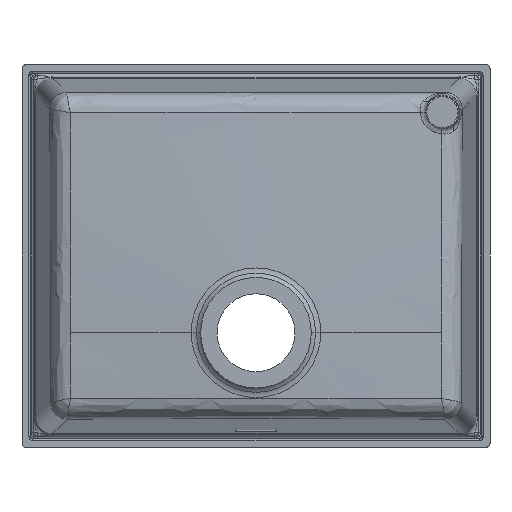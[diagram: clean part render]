
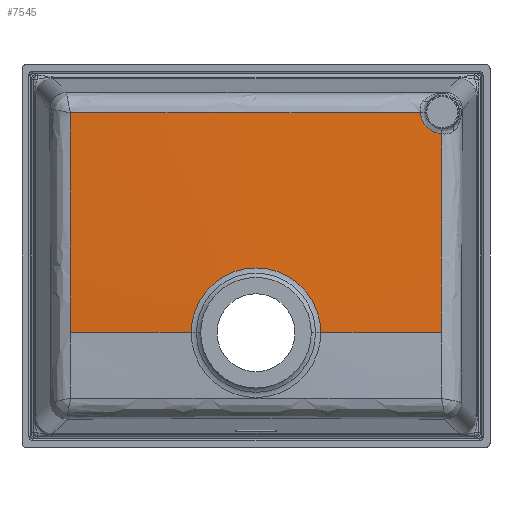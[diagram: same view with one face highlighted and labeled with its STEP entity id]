
A CAD part, front view. The second image highlights one B-rep face of the part: STEP entity #7545.
In plain terms, the highlighted conical face has half-angle 87 degrees and reference radius 207.303 mm.
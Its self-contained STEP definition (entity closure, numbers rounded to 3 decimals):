
#1901=CARTESIAN_POINT('',(0.,-207.06,0.));
#1902=DIRECTION('',(0.,-1.,0.));
#1903=DIRECTION('',(1.,0.,0.));
#1904=AXIS2_PLACEMENT_3D('',#1901,#1902,#1903);
#1909=CARTESIAN_POINT('',(218.068,-199.625,
0.));
#1910=CARTESIAN_POINT('',(218.068,-199.625,1.145));
#1911=CARTESIAN_POINT('',(218.068,-199.618,16.9));
#1912=CARTESIAN_POINT('',(218.066,-199.432,47.261));
#1913=CARTESIAN_POINT('',(218.065,-198.495,105.644));
#1914=CARTESIAN_POINT('',(218.099,-196.725,167.825));
#1915=CARTESIAN_POINT('',(218.176,-195.001,215.358));
#1916=CARTESIAN_POINT('',(218.213,-194.293,233.797));
#1921=CARTESIAN_POINT('',(-218.267,-193.318,
258.623));
#1922=CARTESIAN_POINT('',(-218.205,-194.39,
231.92));
#1923=CARTESIAN_POINT('',(-218.103,-196.489,
176.129));
#1924=CARTESIAN_POINT('',(-218.065,-198.495,
105.652));
#1925=CARTESIAN_POINT('',(-218.066,-199.432,
47.264));
#1926=CARTESIAN_POINT('',(-218.068,-199.618,
16.904));
#1927=CARTESIAN_POINT('',(-218.068,-199.625,
1.149));
#1928=CARTESIAN_POINT('',(-218.068,-199.625,
0.));
#1933=CARTESIAN_POINT('',(193.444,-194.129,258.585));
#1934=CARTESIAN_POINT('',(166.694,-194.971,258.549));
#1935=CARTESIAN_POINT('',(121.116,-196.215,258.509));
#1936=CARTESIAN_POINT('',(56.628,-197.287,258.492));
#1937=CARTESIAN_POINT('',(0.045,-197.616,
258.49));
#1938=CARTESIAN_POINT('',(-56.544,-197.288,
258.492));
#1939=CARTESIAN_POINT('',(-129.355,-196.078,
258.511));
#1940=CARTESIAN_POINT('',(-183.232,-194.505,
258.565));
#1941=CARTESIAN_POINT('',(-218.267,-193.318,
258.623));
#1946=CARTESIAN_POINT('',(218.213,-194.293,233.797));
#1947=CARTESIAN_POINT('',(217.415,-194.32,233.845));
#1948=CARTESIAN_POINT('',(215.809,-194.37,234.016));
#1949=CARTESIAN_POINT('',(212.69,-194.457,234.641));
#1950=CARTESIAN_POINT('',(210.057,-194.513,235.55));
#1951=CARTESIAN_POINT('',(207.877,-194.548,236.594));
#1952=CARTESIAN_POINT('',(206.47,-194.567,237.349));
#1953=CARTESIAN_POINT('',(204.786,-194.583,238.405));
#1954=CARTESIAN_POINT('',(202.89,-194.59,239.844));
#1955=CARTESIAN_POINT('',(200.515,-194.583,242.01));
#1956=CARTESIAN_POINT('',(198.456,-194.551,244.478));
#1957=CARTESIAN_POINT('',(196.75,-194.495,247.207));
#1958=CARTESIAN_POINT('',(195.676,-194.443,249.333));
#1959=CARTESIAN_POINT('',(194.798,-194.38,251.546));
#1960=CARTESIAN_POINT('',(194.116,-194.306,253.857));
#1961=CARTESIAN_POINT('',(193.652,-194.222,256.215));
#1962=CARTESIAN_POINT('',(193.489,-194.161,257.793));
#1963=CARTESIAN_POINT('',(193.444,-194.129,258.585));
#2094=CARTESIAN_POINT('',(-218.267,-193.318,
258.623));
#2518=DIRECTION('',(-0.999,0.052,0.));
#2519=VECTOR('',#2518,142.073);
#2520=CARTESIAN_POINT('',(-76.19,-207.06,0.));
#2521=LINE('',#2520,#2519);
#2525=DIRECTION('',(0.999,0.052,0.));
#2526=VECTOR('',#2525,142.073);
#2527=CARTESIAN_POINT('',(76.19,-207.06,0.));
#2528=LINE('',#2527,#2526);
#4510=CARTESIAN_POINT('',(218.213,-194.293,233.797));
#4547=CARTESIAN_POINT('',(193.444,-194.129,258.585));
#4778=VERTEX_POINT('',#4547);
#4954=VERTEX_POINT('',#2094);
#5030=VERTEX_POINT('',#4510);
#5069=CARTESIAN_POINT('',(76.19,-207.06,0.));
#5070=CARTESIAN_POINT('',(218.068,-199.625,
0.));
#5071=VERTEX_POINT('',#5069);
#5072=VERTEX_POINT('',#5070);
#5073=CARTESIAN_POINT('',(-76.19,-207.06,0.));
#5074=CARTESIAN_POINT('',(-218.068,-199.625,
0.));
#5075=VERTEX_POINT('',#5073);
#5076=VERTEX_POINT('',#5074);
#7525=CARTESIAN_POINT('',(0.,-200.189,0.));
#7526=DIRECTION('',(0.,1.,0.));
#7527=DIRECTION('',(-1.,0.,0.));
#7528=AXIS2_PLACEMENT_3D('',#7525,#7526,#7527);
#7529=CONICAL_SURFACE('',#7528,207.303,87.);
#7531=ORIENTED_EDGE('',*,*,#7530,.F.);
#7533=ORIENTED_EDGE('',*,*,#7532,.F.);
#7534=ORIENTED_EDGE('',*,*,#7515,.T.);
#7536=ORIENTED_EDGE('',*,*,#7535,.T.);
#7538=ORIENTED_EDGE('',*,*,#7537,.F.);
#7540=ORIENTED_EDGE('',*,*,#7539,.F.);
#7542=ORIENTED_EDGE('',*,*,#7541,.F.);
#7543=EDGE_LOOP('',(#7531,#7533,#7534,#7536,#7538,#7540,#7542));
#7544=FACE_OUTER_BOUND('',#7543,.F.);
#1905=CIRCLE('',#1904,76.19);
#1917=B_SPLINE_CURVE_WITH_KNOTS('',3,(#1909,#1910,#1911,#1912,#1913,#1914,#1915,
#1916),.UNSPECIFIED.,.F.,.F.,(4,1,1,1,1,4),(0.,0.015,
0.202,0.389,0.763,1.),.UNSPECIFIED.);
#1929=B_SPLINE_CURVE_WITH_KNOTS('',3,(#1921,#1922,#1923,#1924,#1925,#1926,#1927,
#1928),.UNSPECIFIED.,.F.,.F.,(4,1,1,1,1,4),(0.,0.311,
0.649,0.818,0.987,1.),.UNSPECIFIED.);
#1942=B_SPLINE_CURVE_WITH_KNOTS('',3,(#1933,#1934,#1935,#1936,#1937,#1938,#1939,
#1940,#1941),.UNSPECIFIED.,.F.,.F.,(4,1,1,1,1,1,4),(0.,0.195,
0.333,0.47,0.607,0.744,1.),
.UNSPECIFIED.);
#1964=B_SPLINE_CURVE_WITH_KNOTS('',3,(#1946,#1947,#1948,#1949,#1950,#1951,#1952,
#1953,#1954,#1955,#1956,#1957,#1958,#1959,#1960,#1961,#1962,#1963),
.UNSPECIFIED.,.F.,.F.,(4,1,1,1,1,1,1,1,1,1,1,1,1,1,1,4),(0.,0.063,0.125,
0.25,0.281,0.313,0.375,0.438,0.5,0.625,0.688,0.75,
0.813,0.875,0.938,1.),.UNSPECIFIED.);
#7515=EDGE_CURVE('',#5071,#5075,#1905,.T.);
#7530=EDGE_CURVE('',#5072,#5030,#1917,.T.);
#7532=EDGE_CURVE('',#5071,#5072,#2528,.T.);
#7535=EDGE_CURVE('',#5075,#5076,#2521,.T.);
#7537=EDGE_CURVE('',#4954,#5076,#1929,.T.);
#7539=EDGE_CURVE('',#4778,#4954,#1942,.T.);
#7541=EDGE_CURVE('',#5030,#4778,#1964,.T.);
#7545=ADVANCED_FACE('',(#7544),#7529,.T.);
